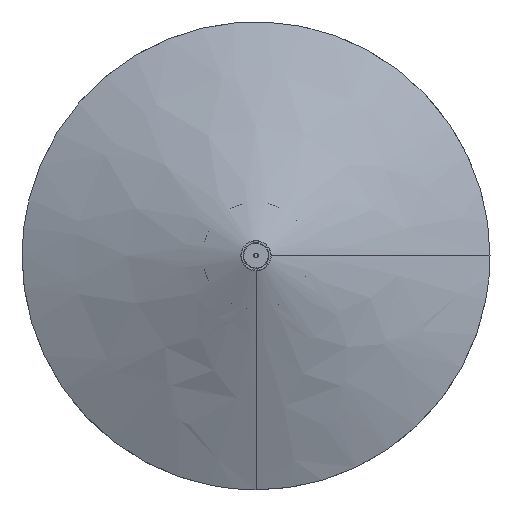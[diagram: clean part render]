
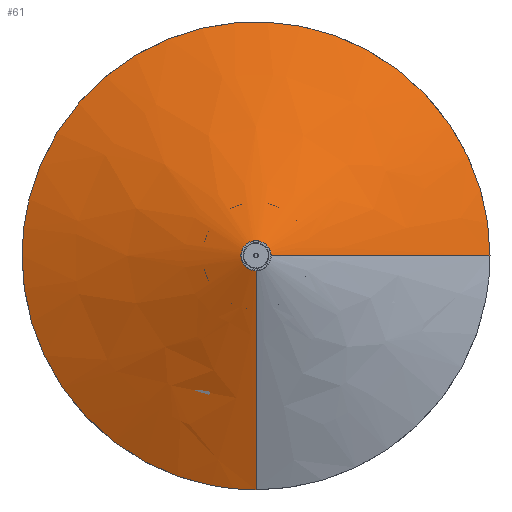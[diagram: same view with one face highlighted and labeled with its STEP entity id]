
A CAD part, top view. The second image highlights one B-rep face of the part: STEP entity #61.
In plain terms, the highlighted free-form (B-spline) face has degree [2, 1] with [9, 2] control points.
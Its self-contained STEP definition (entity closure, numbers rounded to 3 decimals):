
#61=ADVANCED_FACE('',(#108),#759,.T.);
#108=FACE_OUTER_BOUND('',#157,.T.);
#157=EDGE_LOOP('',(#248,#249,#250,#251,#252,#253,#254));
#248=ORIENTED_EDGE('',*,*,#454,.T.);
#249=ORIENTED_EDGE('',*,*,#457,.F.);
#250=ORIENTED_EDGE('',*,*,#452,.F.);
#251=ORIENTED_EDGE('',*,*,#451,.F.);
#252=ORIENTED_EDGE('',*,*,#447,.F.);
#253=ORIENTED_EDGE('',*,*,#455,.T.);
#254=ORIENTED_EDGE('',*,*,#456,.T.);
#447=EDGE_CURVE('',#679,#680,#589,.T.);
#451=EDGE_CURVE('',#680,#682,#593,.T.);
#452=EDGE_CURVE('',#682,#678,#594,.T.);
#454=EDGE_CURVE('',#686,#687,#596,.T.);
#455=EDGE_CURVE('',#679,#688,#549,.T.);
#456=EDGE_CURVE('',#688,#686,#597,.T.);
#457=EDGE_CURVE('',#678,#687,#550,.T.);
#549=B_SPLINE_CURVE_WITH_KNOTS('',1,(#1441,#1442),.UNSPECIFIED.,.F.,.F.,
(2,2),(0.,202.479),.UNSPECIFIED.);
#550=B_SPLINE_CURVE_WITH_KNOTS('',1,(#1448,#1449),.UNSPECIFIED.,.F.,.F.,
(2,2),(13.999,216.478),.UNSPECIFIED.);
#589=(
BOUNDED_CURVE()
B_SPLINE_CURVE(2,(#1417,#1418,#1419),.UNSPECIFIED.,.F.,.F.)
B_SPLINE_CURVE_WITH_KNOTS((3,3),(0.,25.868),.UNSPECIFIED.)
CURVE()
GEOMETRIC_REPRESENTATION_ITEM()
RATIONAL_B_SPLINE_CURVE((1.,0.707,1.))
REPRESENTATION_ITEM('')
);
#593=(
BOUNDED_CURVE()
B_SPLINE_CURVE(2,(#1429,#1430,#1431),.UNSPECIFIED.,.F.,.F.)
B_SPLINE_CURVE_WITH_KNOTS((3,3),(0.,25.868),.UNSPECIFIED.)
CURVE()
GEOMETRIC_REPRESENTATION_ITEM()
RATIONAL_B_SPLINE_CURVE((1.,0.707,1.))
REPRESENTATION_ITEM('')
);
#594=(
BOUNDED_CURVE()
B_SPLINE_CURVE(2,(#1432,#1433,#1434),.UNSPECIFIED.,.F.,.F.)
B_SPLINE_CURVE_WITH_KNOTS((3,3),(0.,25.868),.UNSPECIFIED.)
CURVE()
GEOMETRIC_REPRESENTATION_ITEM()
RATIONAL_B_SPLINE_CURVE((1.,0.707,1.))
REPRESENTATION_ITEM('')
);
#596=(
BOUNDED_CURVE()
B_SPLINE_CURVE(2,(#1438,#1439,#1440),.UNSPECIFIED.,.F.,.F.)
B_SPLINE_CURVE_WITH_KNOTS((3,3),(0.,400.),.UNSPECIFIED.)
CURVE()
GEOMETRIC_REPRESENTATION_ITEM()
RATIONAL_B_SPLINE_CURVE((1.,0.707,1.))
REPRESENTATION_ITEM('')
);
#597=(
BOUNDED_CURVE()
B_SPLINE_CURVE(2,(#1443,#1444,#1445,#1446,#1447),.UNSPECIFIED.,.F.,.F.)
B_SPLINE_CURVE_WITH_KNOTS((3,2,3),(0.,400.,800.),.UNSPECIFIED.)
CURVE()
GEOMETRIC_REPRESENTATION_ITEM()
RATIONAL_B_SPLINE_CURVE((1.,0.707,1.,0.707,1.))
REPRESENTATION_ITEM('')
);
#678=VERTEX_POINT('',#1354);
#679=VERTEX_POINT('',#1355);
#680=VERTEX_POINT('',#1356);
#682=VERTEX_POINT('',#1358);
#686=VERTEX_POINT('',#1362);
#687=VERTEX_POINT('',#1363);
#688=VERTEX_POINT('',#1364);
#759=(
BOUNDED_SURFACE()
B_SPLINE_SURFACE(2,1,((#1231,#1232),(#1233,#1234),(#1235,#1236),(#1237,
#1238),(#1239,#1240),(#1241,#1242),(#1243,#1244),(#1245,#1246),(#1247,#1248)),
 .UNSPECIFIED.,.T.,.F.,.F.)
B_SPLINE_SURFACE_WITH_KNOTS((3,2,2,2,3),(2,2),(0.,346.03,692.061,
1038.091,1384.121),(0.,238.44),.UNSPECIFIED.)
GEOMETRIC_REPRESENTATION_ITEM()
RATIONAL_B_SPLINE_SURFACE(((1.,1.),(0.707,0.707),
(1.,1.),(0.707,0.707),(1.,1.),(0.707,
0.707),(1.,1.),(0.707,0.707),(1.,1.)))
REPRESENTATION_ITEM('')
SURFACE()
);
#1231=CARTESIAN_POINT('',(0.,5.281,0.));
#1232=CARTESIAN_POINT('',(0.,-85.966,220.29));
#1233=CARTESIAN_POINT('',(0.,5.281,0.));
#1234=CARTESIAN_POINT('',(-220.29,-85.966,220.29));
#1235=CARTESIAN_POINT('',(0.,5.281,0.));
#1236=CARTESIAN_POINT('',(-220.29,-85.966,0.));
#1237=CARTESIAN_POINT('',(0.,5.281,0.));
#1238=CARTESIAN_POINT('',(-220.29,-85.966,-220.29));
#1239=CARTESIAN_POINT('',(0.,5.281,0.));
#1240=CARTESIAN_POINT('',(0.,-85.966,-220.29));
#1241=CARTESIAN_POINT('',(0.,5.281,0.));
#1242=CARTESIAN_POINT('',(220.29,-85.966,-220.29));
#1243=CARTESIAN_POINT('',(0.,5.281,0.));
#1244=CARTESIAN_POINT('',(220.29,-85.966,0.));
#1245=CARTESIAN_POINT('',(0.,5.281,0.));
#1246=CARTESIAN_POINT('',(220.29,-85.966,220.29));
#1247=CARTESIAN_POINT('',(0.,5.281,0.));
#1248=CARTESIAN_POINT('',(0.,-85.966,220.29));
#1354=CARTESIAN_POINT('',(0.,-0.076,12.934));
#1355=CARTESIAN_POINT('',(12.934,-0.076,0.));
#1356=CARTESIAN_POINT('',(0.,-0.076,-12.934));
#1358=CARTESIAN_POINT('',(-12.934,-0.076,0.));
#1362=CARTESIAN_POINT('',(-200.,-77.561,0.));
#1363=CARTESIAN_POINT('',(0.,-77.561,200.));
#1364=CARTESIAN_POINT('',(200.,-77.561,0.));
#1417=CARTESIAN_POINT('',(12.934,-0.076,0.));
#1418=CARTESIAN_POINT('',(12.934,-0.076,-12.934));
#1419=CARTESIAN_POINT('',(0.,-0.076,-12.934));
#1429=CARTESIAN_POINT('',(0.,-0.076,-12.934));
#1430=CARTESIAN_POINT('',(-12.934,-0.076,-12.934));
#1431=CARTESIAN_POINT('',(-12.934,-0.076,0.));
#1432=CARTESIAN_POINT('',(-12.934,-0.076,0.));
#1433=CARTESIAN_POINT('',(-12.934,-0.076,12.934));
#1434=CARTESIAN_POINT('',(0.,-0.076,12.934));
#1438=CARTESIAN_POINT('',(-200.,-77.561,0.));
#1439=CARTESIAN_POINT('',(-200.,-77.561,200.));
#1440=CARTESIAN_POINT('',(0.,-77.561,200.));
#1441=CARTESIAN_POINT('',(12.934,-0.076,0.));
#1442=CARTESIAN_POINT('',(200.,-77.561,0.));
#1443=CARTESIAN_POINT('',(200.,-77.561,0.));
#1444=CARTESIAN_POINT('',(200.,-77.561,-200.));
#1445=CARTESIAN_POINT('',(0.,-77.561,-200.));
#1446=CARTESIAN_POINT('',(-200.,-77.561,-200.));
#1447=CARTESIAN_POINT('',(-200.,-77.561,0.));
#1448=CARTESIAN_POINT('',(0.,-0.076,12.934));
#1449=CARTESIAN_POINT('',(0.,-77.561,200.));
